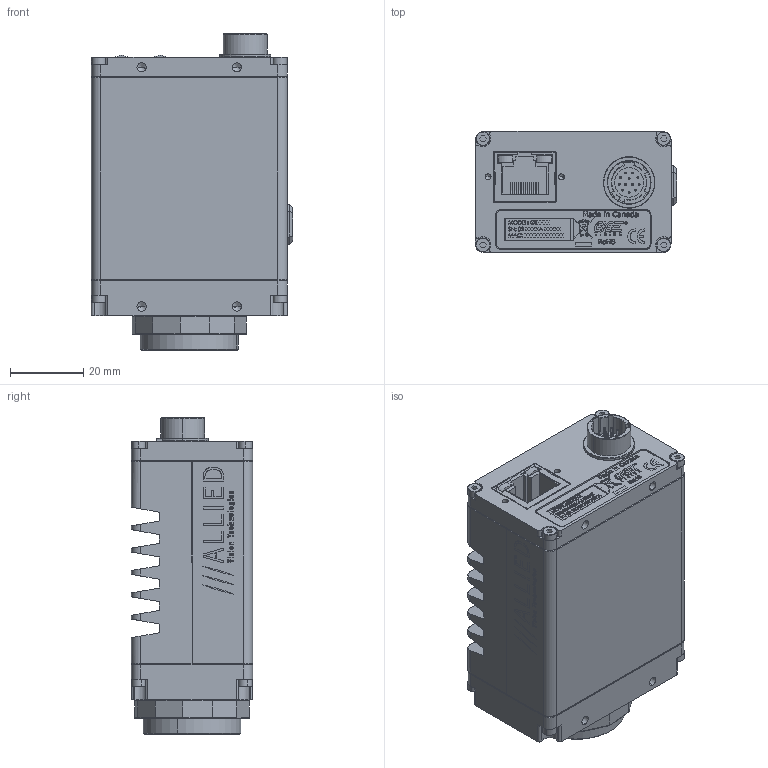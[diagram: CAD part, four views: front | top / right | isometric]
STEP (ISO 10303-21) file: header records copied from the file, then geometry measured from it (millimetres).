
FILE_DESCRIPTION (( 'STEP AP214' ), '1' );
FILE_NAME ('GT1290C CAMERAS ASSY.STEP', '2013-08-01T15:52:10', ( '' ), ( '' ), 'SwSTEP 2.0', 'SolidWorks 2013', '' );
FILE_SCHEMA (( 'AUTOMOTIVE_DESIGN' ));
Length unit declared in the file: millimetre
Products named in the file (28): GT1290C CAMERAS ASSY; LABEL PRINTOUT; 140061-SCREW SKT CAP M2x8 SS; 110153A-GT BACK PLATE; 260034-HIROSE HR10A-10R-12PB NUT; 260034-HIROSE HR10A-10R-12PB; 260034-HIROSE HR10A-10R-12PB WASHER; 100191A-GT BACK ASSY; 270065-PANASONIC LNJ210C6RRA; CONN_AMPHENOL_RJHSE-5481; CONN_KOBICONN_163-157J-E; 200130B-GT CONTROL SLOW; GT TOP COVER_110159A-GT TOP COVER SHORT; GT BOT COVER_110158A-GT BOT COVER SHORT; GT BODY ASSY_100193A-GT BODY ASSY SLOW; 110154A-GT FRONT PLATE SF; 110031A-B EC-CCD LOCKING RING; 140096-DOWEL PIN 0.0625 X .25; SONY ICX445 BODY; SONY ICX445 WINDOW; 220122-SONY ICX445AQA; 440002-IR CUT FILTER 22MM DIA; 110054B-A IR FILTER SUPPORT; 100097B - IR FILTER ASSEMBLY 0.75 INCH; 110157A-GT CCD GASKET SF; 110003AC-CV CMOUNT RING; GT1290 FRONT ASSY_100211A-GT1290C FRONT ASSY; 740144A-GT SERIES LABEL
Assembly tree (36 placements, depth 4):
  GT1290C CAMERAS ASSY
    LABEL PRINTOUT
    140061-SCREW SKT CAP M2x8 SS  x4
    GT BODY ASSY_100193A-GT BODY ASSY SLOW
      100191A-GT BACK ASSY
        110153A-GT BACK PLATE
        260034-HIROSE HR10A-10R-12PB NUT
        260034-HIROSE HR10A-10R-12PB
        260034-HIROSE HR10A-10R-12PB WASHER
      200130B-GT CONTROL SLOW
        270065-PANASONIC LNJ210C6RRA  x2
        CONN_AMPHENOL_RJHSE-5481
        CONN_KOBICONN_163-157J-E
      140061-SCREW SKT CAP M2x8 SS  x4
      GT TOP COVER_110159A-GT TOP COVER SHORT
      GT BOT COVER_110158A-GT BOT COVER SHORT
    GT1290 FRONT ASSY_100211A-GT1290C FRONT ASSY
      110154A-GT FRONT PLATE SF
      110031A-B EC-CCD LOCKING RING
      140096-DOWEL PIN 0.0625 X .25  x2
      220122-SONY ICX445AQA
        SONY ICX445 BODY
        SONY ICX445 WINDOW
      100097B - IR FILTER ASSEMBLY 0.75 INCH
        440002-IR CUT FILTER 22MM DIA
        110054B-A IR FILTER SUPPORT
      110157A-GT CCD GASKET SF
      110003AC-CV CMOUNT RING
    740144A-GT SERIES LABEL
Bounding box: 54.84 x 33.02 x 86.13 mm (x, y, z)
Volume: 63817.5 mm3; surface area: 53509.9 mm2
Topology: 50 solids, 50 shells, 3995 faces, 10482 edges, 6768 vertices
Faces by surface type: plane 2489, bspline 645, cylinder 581, cone 280
Entity records: 183605 total; most frequent: CARTESIAN_POINT 49629, ORIENTED_EDGE 19946, DIRECTION 16452, EDGE_CURVE 9973, LINE 7380, VECTOR 7380, VERTEX_POINT 6515, AXIS2_PLACEMENT_3D 4536
